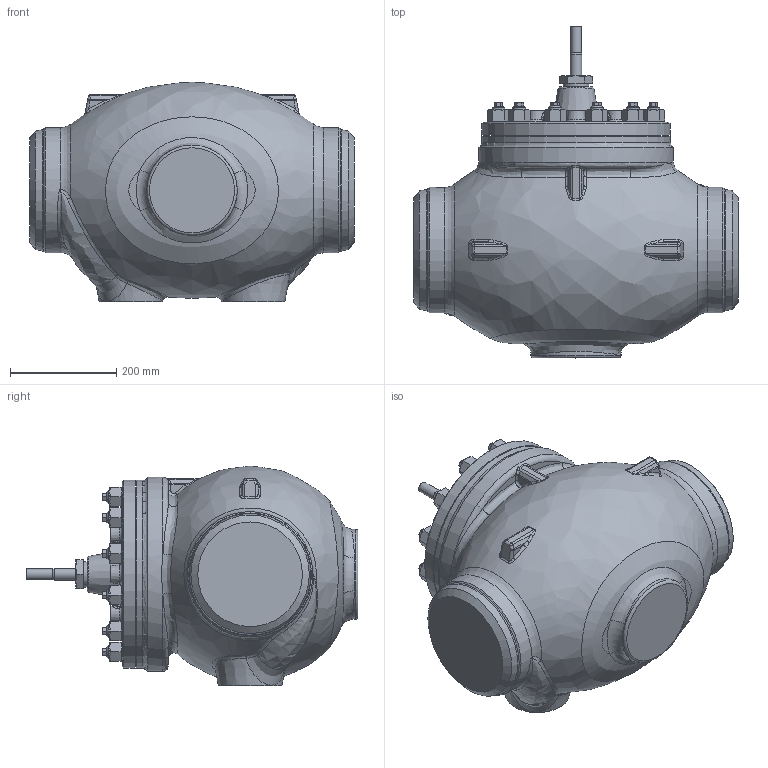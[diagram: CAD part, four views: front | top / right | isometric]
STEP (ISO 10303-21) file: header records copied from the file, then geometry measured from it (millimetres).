
FILE_DESCRIPTION(/* description */ (''),/* implementation_level */ '2;1');
FILE_NAME(/* name */ 'CV3xx_NPS_8_privarovaci.stp',/* time_stamp */ '2014-01-07T06:49:36+01:00',/* author */ (''),/* organization */ ('LDM'),/* preprocessor_version */ 'ST-DEVELOPER v11',/* originating_system */ 'SIEMENS PLM Software NX 7.0',/* authorisation */ '');
FILE_SCHEMA (('CONFIG_CONTROL_DESIGN'));
Length unit declared in the file: millimetre
Products named in the file (1): adamED63ysz1
Bounding box: 610 x 624.8 x 413.54 mm (x, y, z)
Volume: 61751147.8 mm3; surface area: 1057476.6 mm2
Topology: 1 solids, 13 shells, 846 faces, 1978 edges, 1171 vertices
Faces by surface type: cone 285, plane 254, bspline 137, cylinder 119, torus 43, sphere 8
Full cylindrical faces by diameter (mm): 14.376 x2, 17.97 x4, 20 x1, 22 x1, 24 x36, 33 x1, 36 x24, 48 x1, 170 x1, 236 x2, 253 x1, 354 x2, 366 x1
Entity records: 27397 total; most frequent: CARTESIAN_POINT 11118, ORIENTED_EDGE 3348, DIRECTION 3010, EDGE_CURVE 1674, AXIS2_PLACEMENT_3D 1347, EDGE_LOOP 1087, VERTEX_POINT 1055, ADVANCED_FACE 846
